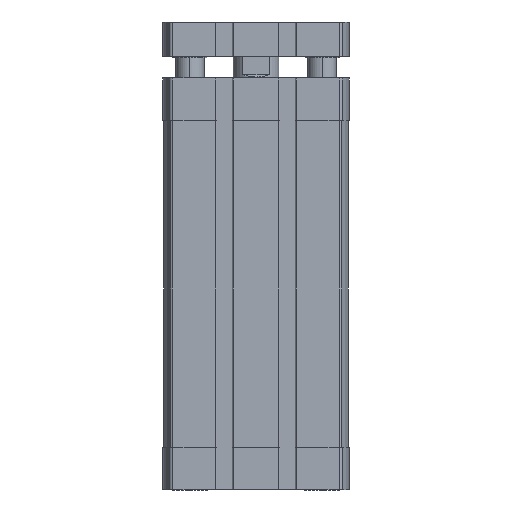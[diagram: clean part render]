
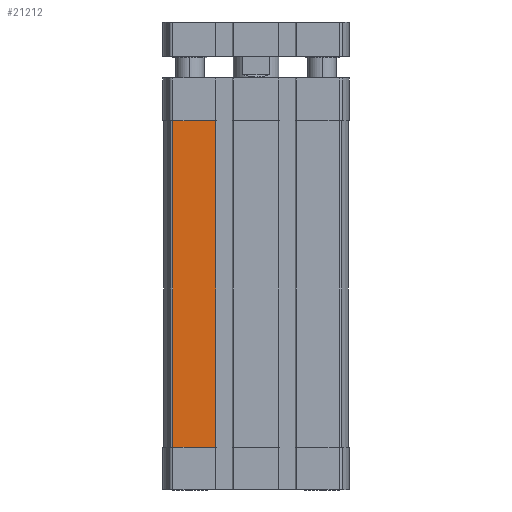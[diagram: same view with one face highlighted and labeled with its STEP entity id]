
A CAD part, front view. The second image highlights one B-rep face of the part: STEP entity #21212.
In plain terms, the highlighted planar face has unit normal (0, -1, 0) as drawn and (-1, 0, 0) by its records, which use the part's own axes.
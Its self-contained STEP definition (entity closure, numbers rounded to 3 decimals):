
#82 = ORIENTED_EDGE ( 'NONE', *, *, #22908, .T. ) ;
#178 = CARTESIAN_POINT ( 'NONE',  ( -32.5, 14.2, -15. ) ) ;
#1664 = EDGE_LOOP ( 'NONE', ( #5465, #2737, #21742, #82 ) ) ;
#1995 = EDGE_CURVE ( 'NONE', #10555, #11798, #22304, .T. ) ;
#2262 = CARTESIAN_POINT ( 'NONE',  ( -32.5, 29.291, -130. ) ) ;
#2688 = VECTOR ( 'NONE', #20772, 1000. ) ;
#2737 = ORIENTED_EDGE ( 'NONE', *, *, #1995, .T. ) ;
#4612 = CARTESIAN_POINT ( 'NONE',  ( -32.5, 14.2, -130. ) ) ;
#4706 = DIRECTION ( 'NONE',  ( 0., 0., 1. ) ) ;
#5324 = DIRECTION ( 'NONE',  ( 0., 0., -1. ) ) ;
#5333 = EDGE_CURVE ( 'NONE', #21024, #10555, #16342, .T. ) ;
#5465 = ORIENTED_EDGE ( 'NONE', *, *, #5333, .T. ) ;
#6608 = VECTOR ( 'NONE', #5324, 1000. ) ;
#6684 = CARTESIAN_POINT ( 'NONE',  ( -32.5, 14.2, -130. ) ) ;
#6993 = FACE_OUTER_BOUND ( 'NONE', #1664, .T. ) ;
#7019 = CARTESIAN_POINT ( 'NONE',  ( -32.5, 0., -15. ) ) ;
#9707 = CARTESIAN_POINT ( 'NONE',  ( -32.5, 29.291, -130. ) ) ;
#10555 = VERTEX_POINT ( 'NONE', #6684 ) ;
#11004 = VECTOR ( 'NONE', #19576, 1000. ) ;
#11347 = LINE ( 'NONE', #16036, #6608 ) ;
#11798 = VERTEX_POINT ( 'NONE', #178 ) ;
#15411 = DIRECTION ( 'NONE',  ( -1., 0., 0. ) ) ;
#16036 = CARTESIAN_POINT ( 'NONE',  ( -32.5, 29.291, -130. ) ) ;
#16342 = LINE ( 'NONE', #9707, #21164 ) ;
#18592 = EDGE_CURVE ( 'NONE', #11798, #20746, #20012, .T. ) ;
#19576 = DIRECTION ( 'NONE',  ( 0., 1., 0. ) ) ;
#20012 = LINE ( 'NONE', #7019, #11004 ) ;
#20465 = DIRECTION ( 'NONE',  ( 0., -1., 0. ) ) ;
#20746 = VERTEX_POINT ( 'NONE', #21046 ) ;
#20772 = DIRECTION ( 'NONE',  ( 0., 0., 1. ) ) ;
#20782 = CARTESIAN_POINT ( 'NONE',  ( -32.5, 29.291, -130. ) ) ;
#21024 = VERTEX_POINT ( 'NONE', #2262 ) ;
#21046 = CARTESIAN_POINT ( 'NONE',  ( -32.5, 29.291, -15. ) ) ;
#21164 = VECTOR ( 'NONE', #20465, 1000. ) ;
#21212 = ADVANCED_FACE ( 'NONE', ( #6993 ), #22606, .T. ) ;
#21742 = ORIENTED_EDGE ( 'NONE', *, *, #18592, .T. ) ;
#22304 = LINE ( 'NONE', #4612, #2688 ) ;
#22506 = AXIS2_PLACEMENT_3D ( 'NONE', #20782, #15411, #4706 ) ;
#22606 = PLANE ( 'NONE',  #22506 ) ;
#22908 = EDGE_CURVE ( 'NONE', #20746, #21024, #11347, .T. ) ;
